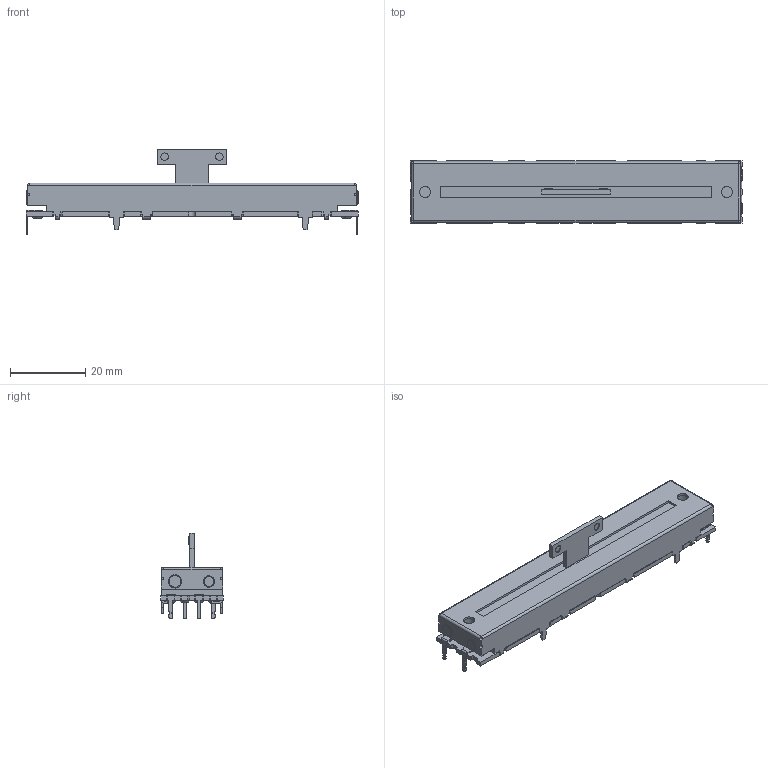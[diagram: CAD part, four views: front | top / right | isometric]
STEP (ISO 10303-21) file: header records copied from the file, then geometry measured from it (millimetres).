
FILE_DESCRIPTION(('FreeCAD Model'),'2;1');
FILE_NAME('Open CASCADE Shape Model','2026-03-31T08:00:35',(''),(''), 'Open CASCADE STEP processor 7.8','FreeCAD','Unknown');
FILE_SCHEMA(('AUTOMOTIVE_DESIGN { 1 0 10303 214 1 1 1 1 }'));
Length unit declared in the file: millimetre
Products named in the file (1): 2DSVA-610X
Bounding box: 88 x 16.5 x 22.7 mm (x, y, z)
Volume: 12150.3 mm3; surface area: 5926.1 mm2
Topology: 1 solids, 7 shells, 602 faces, 1648 edges, 1074 vertices
Faces by surface type: plane 423, cylinder 163, cone 10, torus 6
Full cylindrical faces by diameter (mm): 0.5 x6, 1.5 x6, 1.7 x8, 2 x4, 3 x4, 3.5 x2, 4 x2
Entity records: 22156 total; most frequent: CARTESIAN_POINT 3331, ORIENTED_EDGE 3296, DIRECTION 3230, EDGE_CURVE 1648, LINE 1260, VECTOR 1260, VERTEX_POINT 1074, AXIS2_PLACEMENT_3D 985
